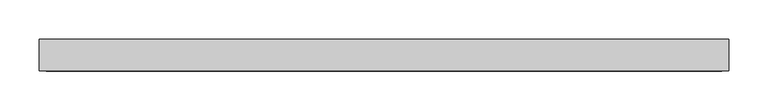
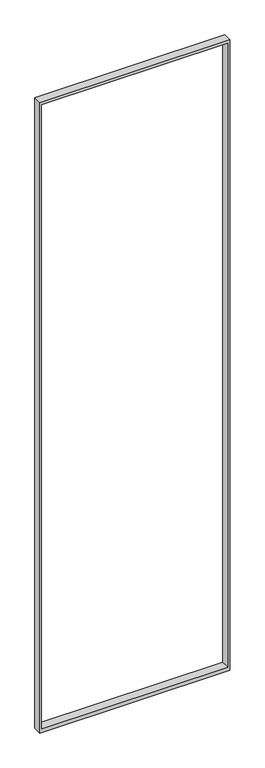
"""IFC4 building model written with IfcOpenShell, lengths in millimetres: plate geometry, Vitré."""

from ifc_helpers import new_model, si_unit, frame, origin, place, context, project, spatial, polyline, outline, extrude, source, transform, mapped, element, save


def plate_b4ad6309(model_context):
    return source(origin(), model_context, "Body", "SweptSolid", [
        extrude(outline(polyline([(0.0, 438.09375), (3077.375, 438.09375), (3077.375, -438.09375), (0.0, -438.09375), (0.0, 438.09375)]), holes=[polyline([(17.375, -429.40625), (3065.0, -429.40625), (3065.0, 429.40625), (17.375, 429.40625), (17.375, -429.40625)])]), frame((0.0, -20.0, 0.0), z_axis=(0.0, 1.0, 0.0), x_axis=(0.0, 0.0, 1.0)), (0.0, 0.0, 1.0), 40.0),
    ])


if __name__ == "__main__":
    model = new_model("IFC4")
    model_context = context("Model", 3, world=origin())
    ifc_project = project(units=[si_unit("LENGTHUNIT", "METRE", prefix="MILLI")], contexts=[model_context])
    site = spatial("IfcSite", under=ifc_project)
    building = spatial("IfcBuilding", under=site)
    placement = place(None, origin())
    plate_shape = plate_b4ad6309(model_context)
    element("IfcPlate", 1, ObjectType="Vitré", at=placement, inside=building, context=model_context, shape_type="MappedRepresentation", body=[
        mapped(plate_shape, transform((0.0, 0.0, 0.0), x_axis=(1.0, 0.0, 0.0), y_axis=(0.0, 1.0, 0.0), z_axis=(0.0, 0.0, 1.0))),
    ])
    save(model, "model.ifc")
